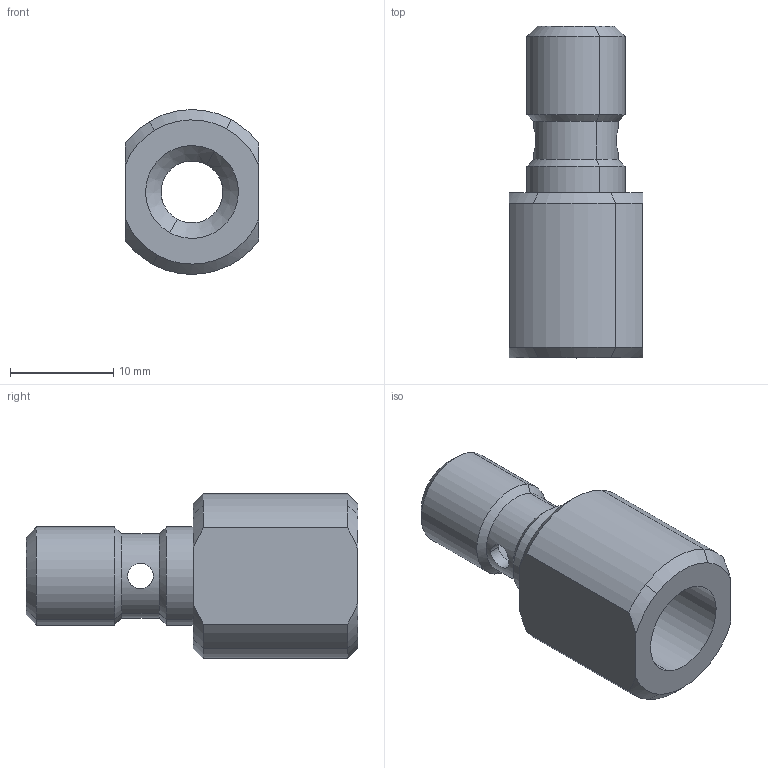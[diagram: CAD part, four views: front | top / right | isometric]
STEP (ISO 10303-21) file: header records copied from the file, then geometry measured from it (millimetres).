
FILE_DESCRIPTION(('3DEXPERIENCE STEP','CAx-IF Rec.Pracs.--- Model Styling and Organization---1.5--- 2016-08-15','CAx-IF Rec.Pracs.---Supplemental Geometry---1.0---2011-11-01','CAx-IF Rec.Pracs.--- Composite Materials ---3.4---2017-06-13','CAx-IF Rec.Pracs.---Tessellated 3D Geometry---1.0---2015-12-17'),'2;1');
FILE_NAME('\\?\D:\School\CarTech\CTU.25\Tutorials\Model\OEM\Sensor_Connection.stp','2024-09-26T02:44:30+00:00',('none'),('none'),'3DEXPERIENCE Platform3DEXPERIENCE R2024x HotFix 4.24','3DEXPERIENCE Platform STEP AP242 v3','none');
FILE_SCHEMA(('AP242_MANAGED_MODEL_BASED_3D_ENGINEERING_MIM_LF {1 0 10303 442 1 1 4}'));
Length unit declared in the file: millimetre
Products named in the file (1): Sensor_screw
Bounding box: 13 x 32.2 x 16 mm (x, y, z)
Volume: 2571.2 mm3; surface area: 2216.8 mm2
Topology: 1 solids, 1 shells, 41 faces, 96 edges, 58 vertices
Faces by surface type: cylinder 18, cone 18, plane 5
Entity records: 1318 total; most frequent: CARTESIAN_POINT 489, ORIENTED_EDGE 192, DIRECTION 112, EDGE_CURVE 96, VERTEX_POINT 58, AXIS2_PLACEMENT_3D 57, EDGE_LOOP 48, ADVANCED_FACE 41
